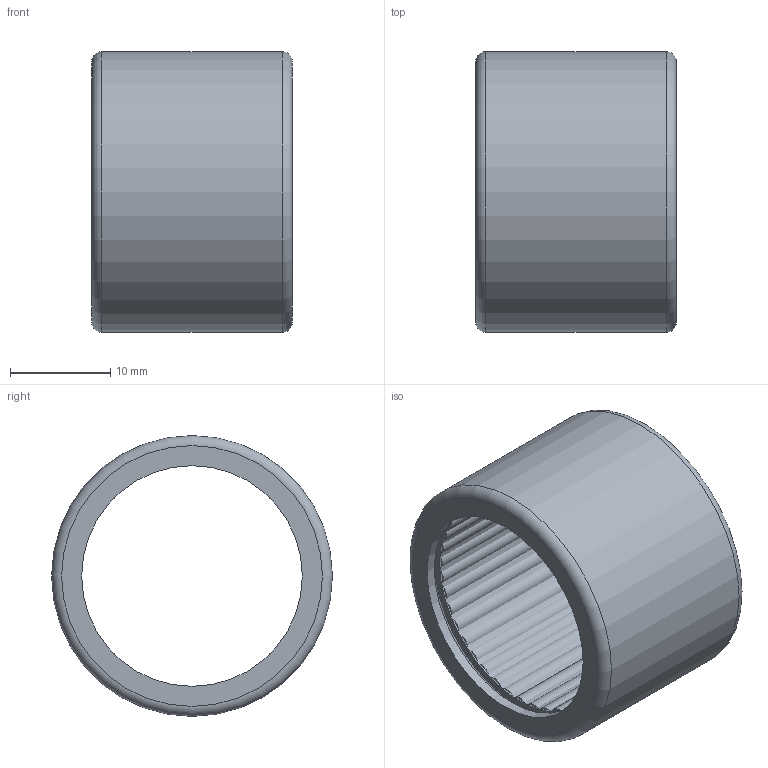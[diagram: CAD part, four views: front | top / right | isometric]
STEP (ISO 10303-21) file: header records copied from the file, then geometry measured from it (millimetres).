
FILE_DESCRIPTION(/* description */ (''),/* implementation_level */ '2;1');
FILE_NAME(/* name */ 'C:\Users\OUREHANEKD\Desktop\Ihlove loziska\HK-2RS\HK-2RS--\HK2220-2RS.stp',/* time_stamp */ '2016-10-07T11:08:24+02:00',/* author */ ('OUREHANEKD'),/* organization */ (''),/* preprocessor_version */ 'ST-DEVELOPER v15.6',/* originating_system */ 'Autodesk Inventor 2015',/* authorisation */ '');
FILE_SCHEMA (('AUTOMOTIVE_DESIGN { 1 0 10303 214 3 1 1 }'));
Length unit declared in the file: millimetre
Products named in the file (4): HK2220-2RS-01; HK2220-2RS-kl; HK2220-2RS-ihla; HK2220-2RS
Assembly tree (42 placements, depth 2):
  HK2220-2RS
    HK2220-2RS-01
    HK2220-2RS-kl
    HK2220-2RS-ihla  x40
Bounding box: 20 x 28 x 28 mm (x, y, z)
Volume: 5903.4 mm3; surface area: 10798.7 mm2
Topology: 42 solids, 42 shells, 136 faces, 146 edges, 96 vertices
Faces by surface type: plane 86, cylinder 46, torus 2, cone 2
Full cylindrical faces by diameter (mm): 1.992 x40, 22 x2, 22.5 x1, 25.484 x1, 25.984 x1, 28 x1
Entity records: 780 total; most frequent: DIRECTION 166, CARTESIAN_POINT 101, AXIS2_PLACEMENT_3D 83, PRODUCT_DEFINITION_SHAPE 46, ITEM_DEFINED_TRANSFORMATION 42, CONTEXT_DEPENDENT_SHAPE_REPRESENTATION 42, NEXT_ASSEMBLY_USAGE_OCCURRENCE 42, EDGE_LOOP 36
